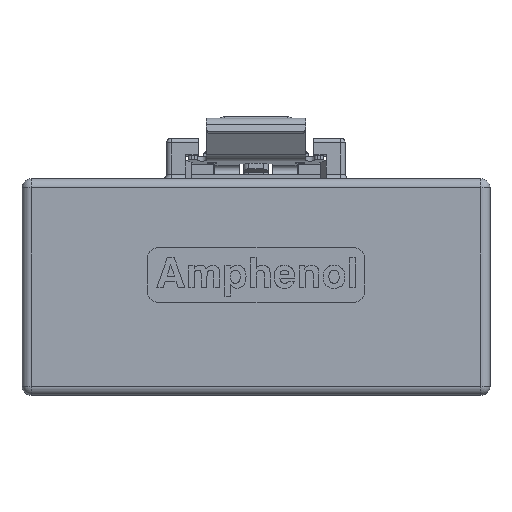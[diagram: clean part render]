
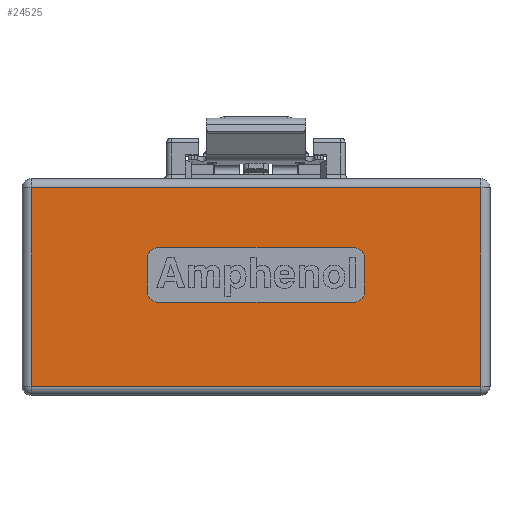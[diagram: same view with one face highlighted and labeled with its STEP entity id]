
A CAD part, front view. The second image highlights one B-rep face of the part: STEP entity #24525.
In plain terms, the highlighted planar face has unit normal (0, -1, 0) as drawn and (-1, 0, 0) by its records, which use the part's own axes.
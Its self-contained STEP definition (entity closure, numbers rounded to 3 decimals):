
#20384=DIRECTION('',(0.,1.,0.));
#20385=VECTOR('',#20384,2.);
#20386=CARTESIAN_POINT('',(0.6,-1.,-6.));
#20387=LINE('',#20386,#20385);
#20396=DIRECTION('',(0.,0.,-1.));
#20397=VECTOR('',#20396,11.);
#20398=CARTESIAN_POINT('',(0.6,-1.5,5.5));
#20399=LINE('',#20398,#20397);
#20408=DIRECTION('',(0.,-1.,0.));
#20409=VECTOR('',#20408,2.);
#20410=CARTESIAN_POINT('',(0.6,1.,6.));
#20411=LINE('',#20410,#20409);
#20420=DIRECTION('',(0.,0.,1.));
#20421=VECTOR('',#20420,11.);
#20422=CARTESIAN_POINT('',(0.6,1.5,-5.5));
#20423=LINE('',#20422,#20421);
#20424=CARTESIAN_POINT('',(0.6,-1.,-5.5));
#20425=DIRECTION('',(-1.,0.,0.));
#20426=DIRECTION('',(0.,0.,-1.));
#20427=AXIS2_PLACEMENT_3D('',#20424,#20425,#20426);
#20429=CARTESIAN_POINT('',(0.6,-1.,5.5));
#20430=DIRECTION('',(-1.,0.,0.));
#20431=DIRECTION('',(0.,-1.,0.));
#20432=AXIS2_PLACEMENT_3D('',#20429,#20430,#20431);
#20434=CARTESIAN_POINT('',(0.6,1.,5.5));
#20435=DIRECTION('',(-1.,0.,0.));
#20436=DIRECTION('',(0.,0.,1.));
#20437=AXIS2_PLACEMENT_3D('',#20434,#20435,#20436);
#20439=CARTESIAN_POINT('',(0.6,1.,-5.5));
#20440=DIRECTION('',(-1.,0.,0.));
#20441=DIRECTION('',(0.,1.,0.));
#20442=AXIS2_PLACEMENT_3D('',#20439,#20440,#20441);
#20444=DIRECTION('',(0.,0.,1.));
#20445=VECTOR('',#20444,24.95);
#20446=CARTESIAN_POINT('',(0.6,-6.17,-12.475));
#20447=LINE('',#20446,#20445);
#20467=DIRECTION('',(0.,1.,0.));
#20468=VECTOR('',#20467,11.);
#20469=CARTESIAN_POINT('',(0.6,-6.17,12.475));
#20470=LINE('',#20469,#20468);
#20494=DIRECTION('',(0.,0.,-1.));
#20495=VECTOR('',#20494,24.95);
#20496=CARTESIAN_POINT('',(0.6,4.83,12.475));
#20497=LINE('',#20496,#20495);
#21688=DIRECTION('',(0.,-1.,0.));
#21689=VECTOR('',#21688,11.);
#21690=CARTESIAN_POINT('',(0.6,4.83,-12.475));
#21691=LINE('',#21690,#21689);
#23707=CARTESIAN_POINT('',(0.6,1.,-6.));
#23708=VERTEX_POINT('',#23707);
#23709=CARTESIAN_POINT('',(0.6,1.5,-5.5));
#23710=VERTEX_POINT('',#23709);
#23711=CARTESIAN_POINT('',(0.6,-1.,-6.));
#23712=VERTEX_POINT('',#23711);
#23713=CARTESIAN_POINT('',(0.6,-1.5,-5.5));
#23714=VERTEX_POINT('',#23713);
#23715=CARTESIAN_POINT('',(0.6,-1.5,5.5));
#23716=VERTEX_POINT('',#23715);
#23717=CARTESIAN_POINT('',(0.6,-1.,6.));
#23718=VERTEX_POINT('',#23717);
#23719=CARTESIAN_POINT('',(0.6,1.,6.));
#23720=VERTEX_POINT('',#23719);
#23721=CARTESIAN_POINT('',(0.6,1.5,5.5));
#23722=VERTEX_POINT('',#23721);
#23723=CARTESIAN_POINT('',(0.6,-6.17,-12.475));
#23724=CARTESIAN_POINT('',(0.6,-6.17,12.475));
#23725=VERTEX_POINT('',#23723);
#23726=VERTEX_POINT('',#23724);
#23727=CARTESIAN_POINT('',(0.6,4.83,-12.475));
#23728=VERTEX_POINT('',#23727);
#23729=CARTESIAN_POINT('',(0.6,4.83,12.475));
#23730=VERTEX_POINT('',#23729);
#24500=CARTESIAN_POINT('',(0.6,5.33,-12.65));
#24501=DIRECTION('',(1.,0.,0.));
#24502=DIRECTION('',(0.,-1.,0.));
#24503=AXIS2_PLACEMENT_3D('',#24500,#24501,#24502);
#24504=PLANE('',#24503);
#24506=ORIENTED_EDGE('',*,*,#24505,.F.);
#24508=ORIENTED_EDGE('',*,*,#24507,.F.);
#24510=ORIENTED_EDGE('',*,*,#24509,.F.);
#24512=ORIENTED_EDGE('',*,*,#24511,.F.);
#24513=EDGE_LOOP('',(#24506,#24508,#24510,#24512));
#24514=FACE_OUTER_BOUND('',#24513,.F.);
#24515=ORIENTED_EDGE('',*,*,#24412,.F.);
#24516=ORIENTED_EDGE('',*,*,#24425,.T.);
#24517=ORIENTED_EDGE('',*,*,#24440,.F.);
#24518=ORIENTED_EDGE('',*,*,#24453,.T.);
#24519=ORIENTED_EDGE('',*,*,#24466,.F.);
#24520=ORIENTED_EDGE('',*,*,#24481,.T.);
#24521=ORIENTED_EDGE('',*,*,#24493,.F.);
#24522=ORIENTED_EDGE('',*,*,#24396,.T.);
#24523=EDGE_LOOP('',(#24515,#24516,#24517,#24518,#24519,#24520,#24521,#24522));
#24524=FACE_BOUND('',#24523,.F.);
#24525=ADVANCED_FACE('',(#24514,#24524),#24504,.F.);
#20428=CIRCLE('',#20427,0.5);
#20433=CIRCLE('',#20432,0.5);
#20438=CIRCLE('',#20437,0.5);
#20443=CIRCLE('',#20442,0.5);
#24396=EDGE_CURVE('',#23710,#23708,#20443,.T.);
#24412=EDGE_CURVE('',#23712,#23708,#20387,.T.);
#24425=EDGE_CURVE('',#23712,#23714,#20428,.T.);
#24440=EDGE_CURVE('',#23716,#23714,#20399,.T.);
#24453=EDGE_CURVE('',#23716,#23718,#20433,.T.);
#24466=EDGE_CURVE('',#23720,#23718,#20411,.T.);
#24481=EDGE_CURVE('',#23720,#23722,#20438,.T.);
#24493=EDGE_CURVE('',#23710,#23722,#20423,.T.);
#24505=EDGE_CURVE('',#23725,#23726,#20447,.T.);
#24507=EDGE_CURVE('',#23728,#23725,#21691,.T.);
#24509=EDGE_CURVE('',#23730,#23728,#20497,.T.);
#24511=EDGE_CURVE('',#23726,#23730,#20470,.T.);
